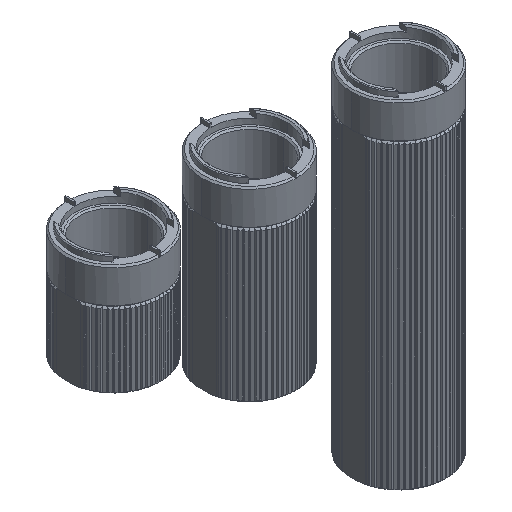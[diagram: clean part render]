
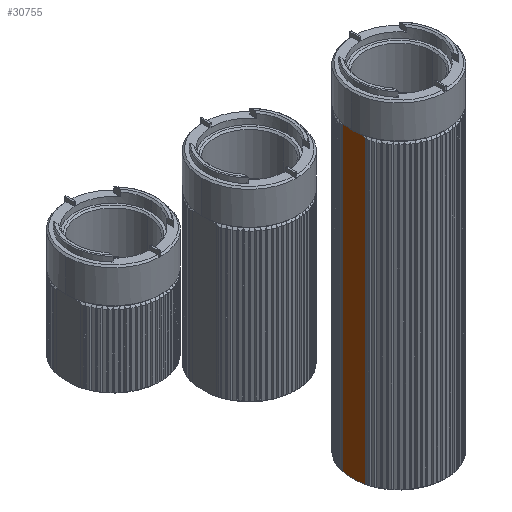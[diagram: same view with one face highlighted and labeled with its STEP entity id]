
A CAD part, isometric view. The second image highlights one B-rep face of the part: STEP entity #30755.
In plain terms, the highlighted planar face has unit normal (-1, 0, 0).
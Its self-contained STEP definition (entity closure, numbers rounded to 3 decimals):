
#24252=DIRECTION('',(0.,-1.,0.));
#24253=VECTOR('',#24252,3.3);
#24254=CARTESIAN_POINT('',(-11.886,1.65,0.));
#24255=LINE('',#24254,#24253);
#25546=DIRECTION('',(0.,-1.,0.));
#25547=VECTOR('',#25546,3.3);
#25548=CARTESIAN_POINT('',(-11.886,1.65,80.));
#25549=LINE('',#25548,#25547);
#25555=CARTESIAN_POINT('',(-11.886,-1.65,0.));
#25556=CARTESIAN_POINT('',(-11.886,-1.813,
0.022));
#25557=CARTESIAN_POINT('',(-11.886,-2.139,
0.074));
#25558=CARTESIAN_POINT('',(-11.886,-2.631,
0.171));
#25559=CARTESIAN_POINT('',(-11.886,-2.962,
0.248));
#25560=CARTESIAN_POINT('',(-11.886,-3.127,
0.291));
#26380=CARTESIAN_POINT('',(-11.886,3.127,
0.291));
#26381=CARTESIAN_POINT('',(-11.886,2.961,
0.248));
#26382=CARTESIAN_POINT('',(-11.886,2.631,
0.17));
#26383=CARTESIAN_POINT('',(-11.886,2.139,
0.074));
#26384=CARTESIAN_POINT('',(-11.886,1.812,
0.022));
#26385=CARTESIAN_POINT('',(-11.886,1.65,0.));
#26387=DIRECTION('',(0.,0.,-1.));
#26388=VECTOR('',#26387,79.419);
#26389=CARTESIAN_POINT('',(-11.886,-3.127,
79.709));
#26390=LINE('',#26389,#26388);
#26807=CARTESIAN_POINT('',(-11.886,-3.127,
79.709));
#26808=CARTESIAN_POINT('',(-11.886,-2.961,
79.752));
#26809=CARTESIAN_POINT('',(-11.886,-2.631,
79.83));
#26810=CARTESIAN_POINT('',(-11.886,-2.139,
79.926));
#26811=CARTESIAN_POINT('',(-11.886,-1.812,
79.978));
#26812=CARTESIAN_POINT('',(-11.886,-1.65,80.));
#26819=CARTESIAN_POINT('',(-11.886,1.65,80.));
#26820=CARTESIAN_POINT('',(-11.886,1.813,
79.978));
#26821=CARTESIAN_POINT('',(-11.886,2.139,
79.926));
#26822=CARTESIAN_POINT('',(-11.886,2.631,
79.829));
#26823=CARTESIAN_POINT('',(-11.886,2.962,
79.752));
#26824=CARTESIAN_POINT('',(-11.886,3.127,
79.709));
#28684=DIRECTION('',(0.,0.,-1.));
#28685=VECTOR('',#28684,79.419);
#28686=CARTESIAN_POINT('',(-11.886,3.127,
79.709));
#28687=LINE('',#28686,#28685);
#29613=CARTESIAN_POINT('',(-11.886,1.65,0.));
#29614=CARTESIAN_POINT('',(-11.886,-1.65,0.));
#29615=VERTEX_POINT('',#29613);
#29616=VERTEX_POINT('',#29614);
#29617=CARTESIAN_POINT('',(-11.886,1.65,80.));
#29618=CARTESIAN_POINT('',(-11.886,-1.65,80.));
#29619=VERTEX_POINT('',#29617);
#29620=VERTEX_POINT('',#29618);
#29629=VERTEX_POINT('',#26824);
#29632=VERTEX_POINT('',#26807);
#29634=VERTEX_POINT('',#26380);
#29635=VERTEX_POINT('',#25560);
#30734=CARTESIAN_POINT('',(-11.886,6.088,0.));
#30735=DIRECTION('',(1.,0.,0.));
#30736=DIRECTION('',(0.,-1.,0.));
#30737=AXIS2_PLACEMENT_3D('',#30734,#30735,#30736);
#30738=PLANE('',#30737);
#30739=ORIENTED_EDGE('',*,*,#29694,.F.);
#30741=ORIENTED_EDGE('',*,*,#30740,.F.);
#30743=ORIENTED_EDGE('',*,*,#30742,.F.);
#30745=ORIENTED_EDGE('',*,*,#30744,.F.);
#30746=ORIENTED_EDGE('',*,*,#30723,.T.);
#30748=ORIENTED_EDGE('',*,*,#30747,.F.);
#30750=ORIENTED_EDGE('',*,*,#30749,.T.);
#30752=ORIENTED_EDGE('',*,*,#30751,.F.);
#30753=EDGE_LOOP('',(#30739,#30741,#30743,#30745,#30746,#30748,#30750,#30752));
#30754=FACE_OUTER_BOUND('',#30753,.F.);
#30755=ADVANCED_FACE('',(#30754),#30738,.F.);
#25561=B_SPLINE_CURVE_WITH_KNOTS('',3,(#25555,#25556,#25557,#25558,#25559,
#25560),.UNSPECIFIED.,.F.,.F.,(4,1,1,4),(0.,0.333,
0.667,1.),.UNSPECIFIED.);
#26386=B_SPLINE_CURVE_WITH_KNOTS('',3,(#26380,#26381,#26382,#26383,#26384,
#26385),.UNSPECIFIED.,.F.,.F.,(4,1,1,4),(0.,0.333,
0.667,1.),.UNSPECIFIED.);
#26813=B_SPLINE_CURVE_WITH_KNOTS('',3,(#26807,#26808,#26809,#26810,#26811,
#26812),.UNSPECIFIED.,.F.,.F.,(4,1,1,4),(0.,0.333,
0.667,1.),.UNSPECIFIED.);
#26825=B_SPLINE_CURVE_WITH_KNOTS('',3,(#26819,#26820,#26821,#26822,#26823,
#26824),.UNSPECIFIED.,.F.,.F.,(4,1,1,4),(0.,0.333,
0.667,1.),.UNSPECIFIED.);
#29694=EDGE_CURVE('',#29615,#29616,#24255,.T.);
#30723=EDGE_CURVE('',#29619,#29620,#25549,.T.);
#30740=EDGE_CURVE('',#29634,#29615,#26386,.T.);
#30742=EDGE_CURVE('',#29629,#29634,#28687,.T.);
#30744=EDGE_CURVE('',#29619,#29629,#26825,.T.);
#30747=EDGE_CURVE('',#29632,#29620,#26813,.T.);
#30749=EDGE_CURVE('',#29632,#29635,#26390,.T.);
#30751=EDGE_CURVE('',#29616,#29635,#25561,.T.);
